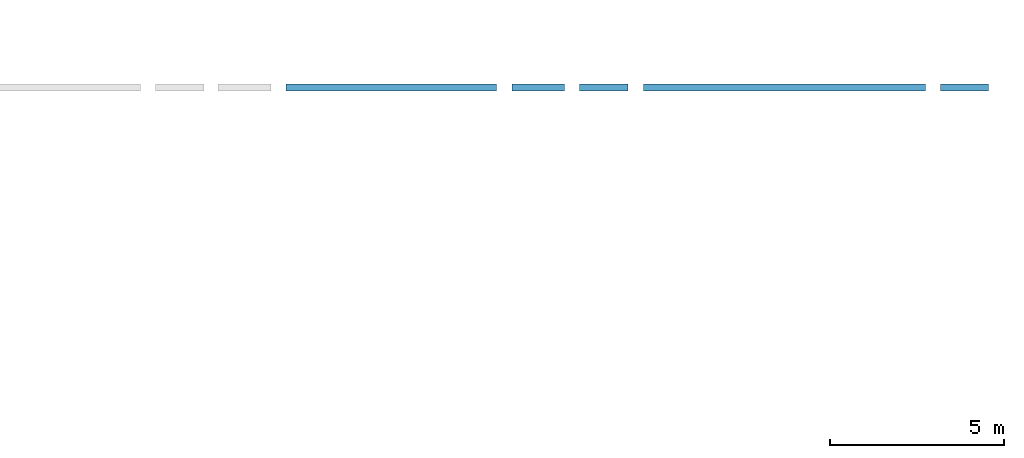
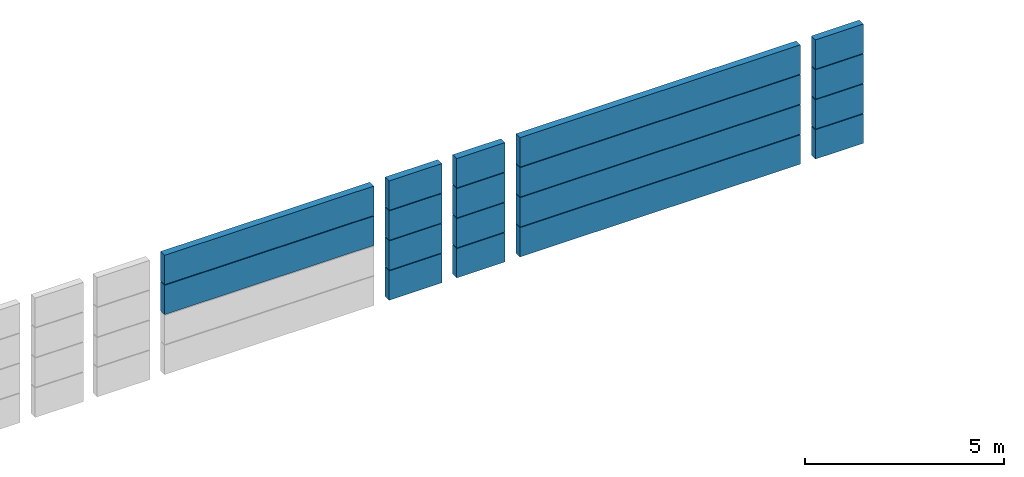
# One storey, part 2 of 3: 18 beams.
"""IFC2X3 building model written with IfcOpenShell, lengths in millimetres."""

from ifc_helpers import new_model, entity, si_unit, converted_unit, derived_unit, direction, frame, frame_2d, origin, place, context, subcontext, project, spatial, rectangle, extrude, material, type_object, element, save


model = new_model("IFC2X3")

# Units and contexts
model_context = context("Model", 3, precision=0.01, world=origin(), true_north=direction((6.12303176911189e-17, 1.0)))
body_context = subcontext(model_context, "Body", "Model", "MODEL_VIEW")
ifc_project = project(units=[si_unit("LENGTHUNIT", "METRE", prefix="MILLI"), si_unit("AREAUNIT", "SQUARE_METRE"), si_unit("VOLUMEUNIT", "CUBIC_METRE"), converted_unit("PLANEANGLEUNIT", "DEGREE", entity("IfcRatioMeasure", 0.0174532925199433), si_unit("PLANEANGLEUNIT", "RADIAN"), dimensions=[0, 0, 0, 0, 0, 0, 0]), si_unit("MASSUNIT", "GRAM", prefix="KILO"), derived_unit("MASSDENSITYUNIT", [(si_unit("MASSUNIT", "GRAM", prefix="KILO"), 1), (si_unit("LENGTHUNIT", "METRE"), -3)]), derived_unit("MOMENTOFINERTIAUNIT", [(si_unit("LENGTHUNIT", "METRE"), 4)]), si_unit("TIMEUNIT", "SECOND"), si_unit("FREQUENCYUNIT", "HERTZ"), si_unit("THERMODYNAMICTEMPERATUREUNIT", "DEGREE_CELSIUS"), derived_unit("THERMALTRANSMITTANCEUNIT", [(si_unit("MASSUNIT", "GRAM", prefix="KILO"), 1), (si_unit("THERMODYNAMICTEMPERATUREUNIT", "KELVIN"), -1), (si_unit("TIMEUNIT", "SECOND"), -3)]), derived_unit("VOLUMETRICFLOWRATEUNIT", [(si_unit("LENGTHUNIT", "METRE"), 3), (si_unit("TIMEUNIT", "SECOND"), -1)]), si_unit("ELECTRICCURRENTUNIT", "AMPERE"), si_unit("ELECTRICVOLTAGEUNIT", "VOLT"), si_unit("POWERUNIT", "WATT"), si_unit("FORCEUNIT", "NEWTON", prefix="KILO"), si_unit("ILLUMINANCEUNIT", "LUX"), si_unit("LUMINOUSFLUXUNIT", "LUMEN"), si_unit("LUMINOUSINTENSITYUNIT", "CANDELA"), derived_unit("USERDEFINED", [(si_unit("MASSUNIT", "GRAM", prefix="KILO"), -1), (si_unit("LENGTHUNIT", "METRE"), -2), (si_unit("TIMEUNIT", "SECOND"), 3), (si_unit("LUMINOUSFLUXUNIT", "LUMEN"), 1)]), derived_unit("LINEARVELOCITYUNIT", [(si_unit("LENGTHUNIT", "METRE"), 1), (si_unit("TIMEUNIT", "SECOND"), -1)]), si_unit("PRESSUREUNIT", "PASCAL"), derived_unit("USERDEFINED", [(si_unit("LENGTHUNIT", "METRE"), -2), (si_unit("MASSUNIT", "GRAM", prefix="KILO"), 1), (si_unit("TIMEUNIT", "SECOND"), -2)]), derived_unit("LINEARFORCEUNIT", [(si_unit("MASSUNIT", "GRAM", prefix="KILO"), 1), (si_unit("LENGTHUNIT", "METRE"), 1), (si_unit("TIMEUNIT", "SECOND"), -2), (si_unit("LENGTHUNIT", "METRE"), -1)]), derived_unit("PLANARFORCEUNIT", [(si_unit("MASSUNIT", "GRAM", prefix="KILO"), 1), (si_unit("LENGTHUNIT", "METRE"), 1), (si_unit("TIMEUNIT", "SECOND"), -2), (si_unit("LENGTHUNIT", "METRE"), -2)])], contexts=[model_context])

# Site, building, storey
site_placement = place(None, frame((10627.5135316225, 21939.0796949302, 0.0)))
site = spatial("IfcSite", under=ifc_project, at=site_placement, Name="Default", CompositionType="ELEMENT")
building_placement = place(site_placement, origin())
building = spatial("IfcBuilding", under=site, at=building_placement, CompositionType="ELEMENT")
storey_placement = place(building_placement, frame((0.0, 0.0, 3660.0)))
storey = spatial("IfcBuildingStorey", under=building, at=storey_placement, Name="R+1", CompositionType="ELEMENT", Elevation=3660.0)

# Beams
ifc_material = material(Name="Concrete, Precast Smooth, Light Grey")
beam_type_1 = type_object("IfcBeamType", Name="NBS_AndertonConcreteProductsLtd_PrcstConcPnls_BallastBoard300:PPT TYPE4", PredefinedType="NOTDEFINED")
beam_1_placement = place(storey_placement, origin())
element("IfcBeam", 1, at=beam_1_placement, inside=storey, type_object=beam_type_1, material=ifc_material, Name="NBS_AndertonConcreteProductsLtd_PrcstConcPnls_BallastBoard300:PPT TYPE4", ObjectType="NBS_AndertonConcreteProductsLtd_PrcstConcPnls_BallastBoard300:PPT TYPE4", context=body_context, shape_type="SweptSolid", body=[
    extrude(rectangle(XDim=898.300000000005, YDim=200.0, at=frame_2d((2.8421709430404e-13, -1.08713038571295e-12), x_axis=(1.0, 0.0))), frame((53617.4864683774, 16595.9203050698, 635.750000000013), z_axis=(1.0, 0.0, 0.0), x_axis=(0.0, 0.0, -1.0)), (0.0, 0.0, 1.0), 8120.0),
])
beam_2_placement = place(storey_placement, origin())
element("IfcBeam", 2, at=beam_2_placement, inside=storey, type_object=beam_type_1, material=ifc_material, Name="NBS_AndertonConcreteProductsLtd_PrcstConcPnls_BallastBoard300:PPT TYPE4", ObjectType="NBS_AndertonConcreteProductsLtd_PrcstConcPnls_BallastBoard300:PPT TYPE4", context=body_context, shape_type="SweptSolid", body=[
    extrude(rectangle(XDim=898.300000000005, YDim=200.0, at=frame_2d((5.40012479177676e-13, -1.08713038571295e-12), x_axis=(1.0, 0.0))), frame((53617.4864683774, 16595.9203050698, 1554.05000000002), z_axis=(1.0, 0.0, 0.0), x_axis=(0.0, 0.0, -1.0)), (0.0, 0.0, 1.0), 8120.0),
])
beam_3_placement = place(storey_placement, origin())
element("IfcBeam", 3, at=beam_3_placement, inside=storey, type_object=beam_type_1, material=ifc_material, Name="NBS_AndertonConcreteProductsLtd_PrcstConcPnls_BallastBoard300:PPT TYPE4", ObjectType="NBS_AndertonConcreteProductsLtd_PrcstConcPnls_BallastBoard300:PPT TYPE4", context=body_context, shape_type="SweptSolid", body=[
    extrude(rectangle(XDim=898.300000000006, YDim=200.0, at=frame_2d((0.0, 1.08713038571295e-12), x_axis=(1.0, 0.0))), frame((53617.4864683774, 16595.9203050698, 2472.35000000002), z_axis=(1.0, 0.0, 0.0), x_axis=(0.0, 0.0, -1.0)), (0.0, 0.0, 1.0), 8120.0),
])
beam_4_placement = place(storey_placement, origin())
element("IfcBeam", 4, at=beam_4_placement, inside=storey, type_object=beam_type_1, material=ifc_material, Name="NBS_AndertonConcreteProductsLtd_PrcstConcPnls_BallastBoard300:PPT TYPE4", ObjectType="NBS_AndertonConcreteProductsLtd_PrcstConcPnls_BallastBoard300:PPT TYPE4", context=body_context, shape_type="SweptSolid", body=[
    extrude(rectangle(XDim=898.300000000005, YDim=200.0, at=frame_2d((5.40012479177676e-13, 1.08713038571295e-12), x_axis=(1.0, 0.0))), frame((53617.4864683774, 16595.9203050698, 3390.65000000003), z_axis=(1.0, 0.0, 0.0), x_axis=(0.0, 0.0, -1.0)), (0.0, 0.0, 1.0), 8120.0),
])
beam_type_2 = type_object("IfcBeamType", Name="NBS_AndertonConcreteProductsLtd_PrcstConcPnls_BallastBoard300:PPT TYPE5", PredefinedType="NOTDEFINED")
beam_5_placement = place(storey_placement, origin())
element("IfcBeam", 5, at=beam_5_placement, inside=storey, type_object=beam_type_2, material=ifc_material, Name="NBS_AndertonConcreteProductsLtd_PrcstConcPnls_BallastBoard300:PPT TYPE5", ObjectType="NBS_AndertonConcreteProductsLtd_PrcstConcPnls_BallastBoard300:PPT TYPE5", context=body_context, shape_type="SweptSolid", body=[
    extrude(rectangle(XDim=898.300000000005, YDim=200.0, at=frame_2d((2.8421709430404e-13, -1.08713038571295e-12), x_axis=(1.0, 0.0))), frame((49830.4864683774, 16595.9203050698, 635.750000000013), z_axis=(1.0, 0.0, 0.0), x_axis=(0.0, 0.0, -1.0)), (0.0, 0.0, 1.0), 1525.0),
])
beam_6_placement = place(storey_placement, origin())
element("IfcBeam", 6, at=beam_6_placement, inside=storey, type_object=beam_type_2, material=ifc_material, Name="NBS_AndertonConcreteProductsLtd_PrcstConcPnls_BallastBoard300:PPT TYPE5", ObjectType="NBS_AndertonConcreteProductsLtd_PrcstConcPnls_BallastBoard300:PPT TYPE5", context=body_context, shape_type="SweptSolid", body=[
    extrude(rectangle(XDim=898.300000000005, YDim=200.0, at=frame_2d((5.40012479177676e-13, -1.08713038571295e-12), x_axis=(1.0, 0.0))), frame((49830.4864683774, 16595.9203050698, 1554.05000000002), z_axis=(1.0, 0.0, 0.0), x_axis=(0.0, 0.0, -1.0)), (0.0, 0.0, 1.0), 1525.0),
])
beam_7_placement = place(storey_placement, origin())
element("IfcBeam", 7, at=beam_7_placement, inside=storey, type_object=beam_type_2, material=ifc_material, Name="NBS_AndertonConcreteProductsLtd_PrcstConcPnls_BallastBoard300:PPT TYPE5", ObjectType="NBS_AndertonConcreteProductsLtd_PrcstConcPnls_BallastBoard300:PPT TYPE5", context=body_context, shape_type="SweptSolid", body=[
    extrude(rectangle(XDim=898.300000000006, YDim=200.0, at=frame_2d((0.0, -1.08713038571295e-12), x_axis=(1.0, 0.0))), frame((49830.4864683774, 16595.9203050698, 2472.35000000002), z_axis=(1.0, 0.0, 0.0), x_axis=(0.0, 0.0, -1.0)), (0.0, 0.0, 1.0), 1525.0),
])
beam_8_placement = place(storey_placement, origin())
element("IfcBeam", 8, at=beam_8_placement, inside=storey, type_object=beam_type_2, material=ifc_material, Name="NBS_AndertonConcreteProductsLtd_PrcstConcPnls_BallastBoard300:PPT TYPE5", ObjectType="NBS_AndertonConcreteProductsLtd_PrcstConcPnls_BallastBoard300:PPT TYPE5", context=body_context, shape_type="SweptSolid", body=[
    extrude(rectangle(XDim=898.300000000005, YDim=200.0, at=frame_2d((5.40012479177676e-13, 1.08713038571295e-12), x_axis=(1.0, 0.0))), frame((49830.4864683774, 16595.9203050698, 3390.65000000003), z_axis=(1.0, 0.0, 0.0), x_axis=(0.0, 0.0, -1.0)), (0.0, 0.0, 1.0), 1525.0),
])
beam_type_3 = type_object("IfcBeamType", Name="NBS_AndertonConcreteProductsLtd_PrcstConcPnls_BallastBoard300:PPT TYPE6", PredefinedType="NOTDEFINED")
beam_9_placement = place(storey_placement, origin())
element("IfcBeam", 9, at=beam_9_placement, inside=storey, type_object=beam_type_3, material=ifc_material, Name="NBS_AndertonConcreteProductsLtd_PrcstConcPnls_BallastBoard300:PPT TYPE6", ObjectType="NBS_AndertonConcreteProductsLtd_PrcstConcPnls_BallastBoard300:PPT TYPE6", context=body_context, shape_type="SweptSolid", body=[
    extrude(rectangle(XDim=898.300000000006, YDim=200.0, at=frame_2d((0.0, -1.08713038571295e-12), x_axis=(1.0, 0.0))), frame((43324.1864683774, 16595.9203050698, 2472.35000000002), z_axis=(1.0, 0.0, 0.0), x_axis=(0.0, 0.0, -1.0)), (0.0, 0.0, 1.0), 6066.3),
])
beam_10_placement = place(storey_placement, origin())
element("IfcBeam", 10, at=beam_10_placement, inside=storey, type_object=beam_type_3, material=ifc_material, Name="NBS_AndertonConcreteProductsLtd_PrcstConcPnls_BallastBoard300:PPT TYPE6", ObjectType="NBS_AndertonConcreteProductsLtd_PrcstConcPnls_BallastBoard300:PPT TYPE6", context=body_context, shape_type="SweptSolid", body=[
    extrude(rectangle(XDim=898.300000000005, YDim=200.0, at=frame_2d((5.40012479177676e-13, -1.08713038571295e-12), x_axis=(1.0, 0.0))), frame((43324.1864683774, 16595.9203050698, 3390.65000000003), z_axis=(1.0, 0.0, 0.0), x_axis=(0.0, 0.0, -1.0)), (0.0, 0.0, 1.0), 6066.3),
])
beam_type_4 = type_object("IfcBeamType", Name="NBS_AndertonConcreteProductsLtd_PrcstConcPnls_BallastBoard300:PPT TYPE7", PredefinedType="NOTDEFINED")
beam_11_placement = place(storey_placement, origin())
element("IfcBeam", 11, at=beam_11_placement, inside=storey, type_object=beam_type_4, material=ifc_material, Name="NBS_AndertonConcreteProductsLtd_PrcstConcPnls_BallastBoard300:PPT TYPE7", ObjectType="NBS_AndertonConcreteProductsLtd_PrcstConcPnls_BallastBoard300:PPT TYPE7", context=body_context, shape_type="SweptSolid", body=[
    extrude(rectangle(XDim=898.300000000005, YDim=200.0, at=frame_2d((2.8421709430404e-13, -1.08713038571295e-12), x_axis=(1.0, 0.0))), frame((51784.4864683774, 16595.9203050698, 635.750000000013), z_axis=(1.0, 0.0, 0.0), x_axis=(0.0, 0.0, -1.0)), (0.0, 0.0, 1.0), 1395.0),
])
beam_12_placement = place(storey_placement, origin())
element("IfcBeam", 12, at=beam_12_placement, inside=storey, type_object=beam_type_4, material=ifc_material, Name="NBS_AndertonConcreteProductsLtd_PrcstConcPnls_BallastBoard300:PPT TYPE7", ObjectType="NBS_AndertonConcreteProductsLtd_PrcstConcPnls_BallastBoard300:PPT TYPE7", context=body_context, shape_type="SweptSolid", body=[
    extrude(rectangle(XDim=898.300000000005, YDim=200.0, at=frame_2d((5.40012479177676e-13, -1.08713038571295e-12), x_axis=(1.0, 0.0))), frame((51784.4864683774, 16595.9203050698, 1554.05000000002), z_axis=(1.0, 0.0, 0.0), x_axis=(0.0, 0.0, -1.0)), (0.0, 0.0, 1.0), 1395.0),
])
beam_13_placement = place(storey_placement, origin())
element("IfcBeam", 13, at=beam_13_placement, inside=storey, type_object=beam_type_4, material=ifc_material, Name="NBS_AndertonConcreteProductsLtd_PrcstConcPnls_BallastBoard300:PPT TYPE7", ObjectType="NBS_AndertonConcreteProductsLtd_PrcstConcPnls_BallastBoard300:PPT TYPE7", context=body_context, shape_type="SweptSolid", body=[
    extrude(rectangle(XDim=898.300000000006, YDim=200.0, at=frame_2d((0.0, 1.08713038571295e-12), x_axis=(1.0, 0.0))), frame((51784.4864683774, 16595.9203050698, 2472.35000000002), z_axis=(1.0, 0.0, 0.0), x_axis=(0.0, 0.0, -1.0)), (0.0, 0.0, 1.0), 1395.0),
])
beam_14_placement = place(storey_placement, origin())
element("IfcBeam", 14, at=beam_14_placement, inside=storey, type_object=beam_type_4, material=ifc_material, Name="NBS_AndertonConcreteProductsLtd_PrcstConcPnls_BallastBoard300:PPT TYPE7", ObjectType="NBS_AndertonConcreteProductsLtd_PrcstConcPnls_BallastBoard300:PPT TYPE7", context=body_context, shape_type="SweptSolid", body=[
    extrude(rectangle(XDim=898.300000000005, YDim=200.0, at=frame_2d((5.40012479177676e-13, -1.08713038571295e-12), x_axis=(1.0, 0.0))), frame((51784.4864683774, 16595.9203050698, 3390.65000000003), z_axis=(1.0, 0.0, 0.0), x_axis=(0.0, 0.0, -1.0)), (0.0, 0.0, 1.0), 1395.0),
])
beam_15_placement = place(storey_placement, origin())
element("IfcBeam", 15, at=beam_15_placement, inside=storey, type_object=beam_type_4, material=ifc_material, Name="NBS_AndertonConcreteProductsLtd_PrcstConcPnls_BallastBoard300:PPT TYPE7", ObjectType="NBS_AndertonConcreteProductsLtd_PrcstConcPnls_BallastBoard300:PPT TYPE7", context=body_context, shape_type="SweptSolid", body=[
    extrude(rectangle(XDim=898.300000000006, YDim=200.0, at=frame_2d((0.0, 1.08713038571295e-12), x_axis=(1.0, 0.0))), frame((62169.4864683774, 16595.9203050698, 2472.35000000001), z_axis=(1.0, 0.0, 0.0), x_axis=(0.0, 0.0, -1.0)), (0.0, 0.0, 1.0), 1395.0),
])
beam_16_placement = place(storey_placement, origin())
element("IfcBeam", 16, at=beam_16_placement, inside=storey, type_object=beam_type_4, material=ifc_material, Name="NBS_AndertonConcreteProductsLtd_PrcstConcPnls_BallastBoard300:PPT TYPE7", ObjectType="NBS_AndertonConcreteProductsLtd_PrcstConcPnls_BallastBoard300:PPT TYPE7", context=body_context, shape_type="SweptSolid", body=[
    extrude(rectangle(XDim=898.300000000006, YDim=200.0, at=frame_2d((0.0, 1.08713038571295e-12), x_axis=(1.0, 0.0))), frame((62169.4864683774, 16595.9203050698, 3390.65000000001), z_axis=(1.0, 0.0, 0.0), x_axis=(0.0, 0.0, -1.0)), (0.0, 0.0, 1.0), 1395.0),
])
beam_17_placement = place(storey_placement, origin())
element("IfcBeam", 17, at=beam_17_placement, inside=storey, type_object=beam_type_4, material=ifc_material, Name="NBS_AndertonConcreteProductsLtd_PrcstConcPnls_BallastBoard300:PPT TYPE7", ObjectType="NBS_AndertonConcreteProductsLtd_PrcstConcPnls_BallastBoard300:PPT TYPE7", context=body_context, shape_type="SweptSolid", body=[
    extrude(rectangle(XDim=898.300000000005, YDim=200.0, at=frame_2d((5.40012479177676e-13, -1.08713038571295e-12), x_axis=(1.0, 0.0))), frame((62169.4864683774, 16595.9203050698, 1554.05), z_axis=(1.0, 0.0, 0.0), x_axis=(0.0, 0.0, -1.0)), (0.0, 0.0, 1.0), 1395.0),
])
beam_18_placement = place(storey_placement, origin())
element("IfcBeam", 18, at=beam_18_placement, inside=storey, type_object=beam_type_4, material=ifc_material, Name="NBS_AndertonConcreteProductsLtd_PrcstConcPnls_BallastBoard300:PPT TYPE7", ObjectType="NBS_AndertonConcreteProductsLtd_PrcstConcPnls_BallastBoard300:PPT TYPE7", context=body_context, shape_type="SweptSolid", body=[
    extrude(rectangle(XDim=898.300000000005, YDim=200.0, at=frame_2d((2.8421709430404e-13, -1.08713038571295e-12), x_axis=(1.0, 0.0))), frame((62169.4864683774, 16595.9203050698, 635.749999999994), z_axis=(1.0, 0.0, 0.0), x_axis=(0.0, 0.0, -1.0)), (0.0, 0.0, 1.0), 1395.0),
])

save(model, "model.ifc")
